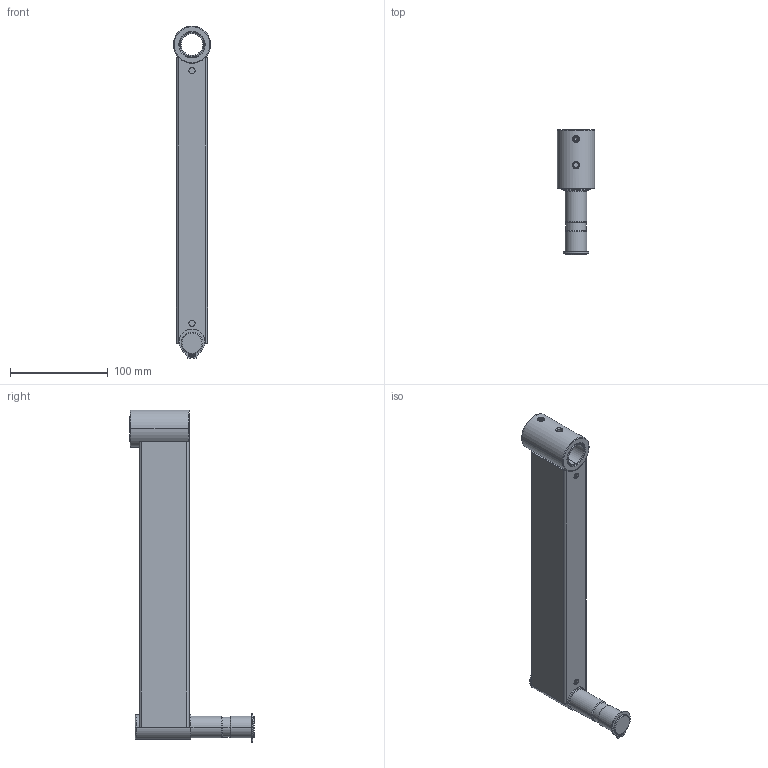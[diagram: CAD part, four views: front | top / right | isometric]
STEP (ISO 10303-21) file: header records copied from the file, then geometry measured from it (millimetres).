
FILE_DESCRIPTION (( 'STEP AP214' ), '1' );
FILE_NAME ('70-1012-00 REV AA, 12in RIGID SECTION.STEP', '2025-05-12T13:26:33', ( '' ), ( '' ), 'SwSTEP 2.0', 'SolidWorks 2025', '' );
FILE_SCHEMA (( 'AUTOMOTIVE_DESIGN' ));
Length unit declared in the file: inch
Products named in the file (8): 016-008-00, OILITE PLUS BEARING, 0.876 id x 1.002 od x 1.25 lg; 71-0022-RX REV AA, PIN, RIGID SECTION; 70-1012-00 REV AA, 12in RIGID SECTION; 007-036-00, SHSS, 1''4-28, .25L_007-036-00; 010-012-00, RETAINING RING, EXTERNAL, .875in SHAFT; 016-007-00, OILITE PLUS BEARING, 0.876 id x 1.002 od x 0.75 lg; 71-2113-RX REV AA, HOUSING, BEARING, TALL, 1.5OD_MACHINE; 71-1012-RX REV AA, HOUSING, 12in RIGID_MACHINE
Assembly tree (7 placements, depth 2):
  70-1012-00 REV AA, 12in RIGID SECTION
    71-1012-RX REV AA, HOUSING, 12in RIGID_MACHINE
    71-0022-RX REV AA, PIN, RIGID SECTION
    71-2113-RX REV AA, HOUSING, BEARING, TALL, 1.5OD_MACHINE
    016-007-00, OILITE PLUS BEARING, 0.876 id x 1.002 od x 0.75 lg
    016-008-00, OILITE PLUS BEARING, 0.876 id x 1.002 od x 1.25 lg
    007-036-00, SHSS, 1''4-28, .25L_007-036-00
    010-012-00, RETAINING RING, EXTERNAL, .875in SHAFT
Bounding box: 38.1 x 127.38 x 339.1 mm (x, y, z)
Volume: 190692 mm3; surface area: 121350.6 mm2
Topology: 7 solids, 7 shells, 174 faces, 411 edges, 250 vertices
Faces by surface type: cylinder 75, plane 42, cone 28, torus 26, bspline 3
Entity records: 6765 total; most frequent: CARTESIAN_POINT 2457, DIRECTION 909, ORIENTED_EDGE 814, EDGE_CURVE 407, AXIS2_PLACEMENT_3D 378, VERTEX_POINT 250, EDGE_LOOP 197, CIRCLE 197
